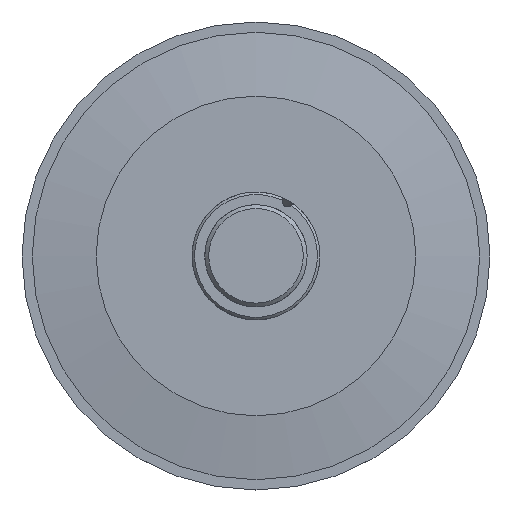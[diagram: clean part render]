
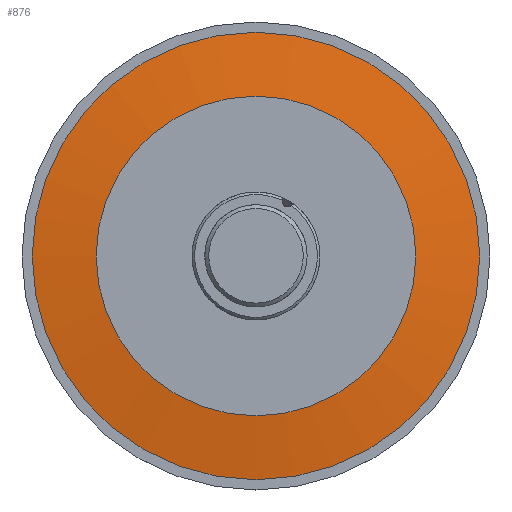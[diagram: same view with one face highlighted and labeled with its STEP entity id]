
A CAD part, top view. The second image highlights one B-rep face of the part: STEP entity #876.
In plain terms, the highlighted conical face has half-angle 82 degrees and reference radius 17.5 mm.
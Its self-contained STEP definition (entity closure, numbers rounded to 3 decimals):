
#786 = PLANE('',#787);
#787 = AXIS2_PLACEMENT_3D('',#788,#789,#790);
#788 = CARTESIAN_POINT('',(0.,0.,1.3));
#789 = DIRECTION('',(0.,0.,1.));
#790 = DIRECTION('',(1.,0.,-0.));
#845 = EDGE_CURVE('',#846,#846,#848,.T.);
#846 = VERTEX_POINT('',#847);
#847 = CARTESIAN_POINT('',(12.5,0.,1.3));
#848 = SURFACE_CURVE('',#849,(#854,#861),.PCURVE_S1.);
#849 = CIRCLE('',#850,12.5);
#850 = AXIS2_PLACEMENT_3D('',#851,#852,#853);
#851 = CARTESIAN_POINT('',(0.,0.,1.3));
#852 = DIRECTION('',(0.,0.,1.));
#853 = DIRECTION('',(1.,0.,-0.));
#854 = PCURVE('',#786,#855);
#855 = DEFINITIONAL_REPRESENTATION('',(#856),#860);
#856 = CIRCLE('',#857,12.5);
#857 = AXIS2_PLACEMENT_2D('',#858,#859);
#858 = CARTESIAN_POINT('',(0.,0.));
#859 = DIRECTION('',(1.,0.));
#860 = ( GEOMETRIC_REPRESENTATION_CONTEXT(2) 
PARAMETRIC_REPRESENTATION_CONTEXT() REPRESENTATION_CONTEXT('2D SPACE',''
  ) );
#861 = PCURVE('',#862,#867);
#862 = CONICAL_SURFACE('',#863,17.5,1.431);
#863 = AXIS2_PLACEMENT_3D('',#864,#865,#866);
#864 = CARTESIAN_POINT('',(0.,0.,0.597));
#865 = DIRECTION('',(-0.,-0.,-1.));
#866 = DIRECTION('',(1.,0.,-0.));
#867 = DEFINITIONAL_REPRESENTATION('',(#868),#872);
#868 = LINE('',#869,#870);
#869 = CARTESIAN_POINT('',(-0.,-0.703));
#870 = VECTOR('',#871,1.);
#871 = DIRECTION('',(-1.,-0.));
#872 = ( GEOMETRIC_REPRESENTATION_CONTEXT(2) 
PARAMETRIC_REPRESENTATION_CONTEXT() REPRESENTATION_CONTEXT('2D SPACE',''
  ) );
#876 = ADVANCED_FACE('',(#877),#862,.T.);
#877 = FACE_BOUND('',#878,.T.);
#878 = EDGE_LOOP('',(#879,#908,#929,#930));
#879 = ORIENTED_EDGE('',*,*,#880,.T.);
#880 = EDGE_CURVE('',#881,#881,#883,.T.);
#881 = VERTEX_POINT('',#882);
#882 = CARTESIAN_POINT('',(17.5,0.,0.597));
#883 = SURFACE_CURVE('',#884,(#889,#896),.PCURVE_S1.);
#884 = CIRCLE('',#885,17.5);
#885 = AXIS2_PLACEMENT_3D('',#886,#887,#888);
#886 = CARTESIAN_POINT('',(0.,0.,0.597));
#887 = DIRECTION('',(0.,0.,1.));
#888 = DIRECTION('',(1.,0.,-0.));
#889 = PCURVE('',#862,#890);
#890 = DEFINITIONAL_REPRESENTATION('',(#891),#895);
#891 = LINE('',#892,#893);
#892 = CARTESIAN_POINT('',(-0.,-0.));
#893 = VECTOR('',#894,1.);
#894 = DIRECTION('',(-1.,-0.));
#895 = ( GEOMETRIC_REPRESENTATION_CONTEXT(2) 
PARAMETRIC_REPRESENTATION_CONTEXT() REPRESENTATION_CONTEXT('2D SPACE',''
  ) );
#896 = PCURVE('',#897,#902);
#897 = PLANE('',#898);
#898 = AXIS2_PLACEMENT_3D('',#899,#900,#901);
#899 = CARTESIAN_POINT('',(0.,0.,0.597));
#900 = DIRECTION('',(0.,0.,1.));
#901 = DIRECTION('',(1.,0.,-0.));
#902 = DEFINITIONAL_REPRESENTATION('',(#903),#907);
#903 = CIRCLE('',#904,17.5);
#904 = AXIS2_PLACEMENT_2D('',#905,#906);
#905 = CARTESIAN_POINT('',(0.,0.));
#906 = DIRECTION('',(1.,0.));
#907 = ( GEOMETRIC_REPRESENTATION_CONTEXT(2) 
PARAMETRIC_REPRESENTATION_CONTEXT() REPRESENTATION_CONTEXT('2D SPACE',''
  ) );
#908 = ORIENTED_EDGE('',*,*,#909,.T.);
#909 = EDGE_CURVE('',#881,#846,#910,.T.);
#910 = SEAM_CURVE('',#911,(#915,#922),.PCURVE_S1.);
#911 = LINE('',#912,#913);
#912 = CARTESIAN_POINT('',(17.5,0.,0.597));
#913 = VECTOR('',#914,1.);
#914 = DIRECTION('',(-0.99,0.,0.139));
#915 = PCURVE('',#862,#916);
#916 = DEFINITIONAL_REPRESENTATION('',(#917),#921);
#917 = LINE('',#918,#919);
#918 = CARTESIAN_POINT('',(-0.,-0.));
#919 = VECTOR('',#920,1.);
#920 = DIRECTION('',(-0.,-1.));
#921 = ( GEOMETRIC_REPRESENTATION_CONTEXT(2) 
PARAMETRIC_REPRESENTATION_CONTEXT() REPRESENTATION_CONTEXT('2D SPACE',''
  ) );
#922 = PCURVE('',#862,#923);
#923 = DEFINITIONAL_REPRESENTATION('',(#924),#928);
#924 = LINE('',#925,#926);
#925 = CARTESIAN_POINT('',(-6.283,-0.));
#926 = VECTOR('',#927,1.);
#927 = DIRECTION('',(-0.,-1.));
#928 = ( GEOMETRIC_REPRESENTATION_CONTEXT(2) 
PARAMETRIC_REPRESENTATION_CONTEXT() REPRESENTATION_CONTEXT('2D SPACE',''
  ) );
#929 = ORIENTED_EDGE('',*,*,#845,.F.);
#930 = ORIENTED_EDGE('',*,*,#909,.F.);
